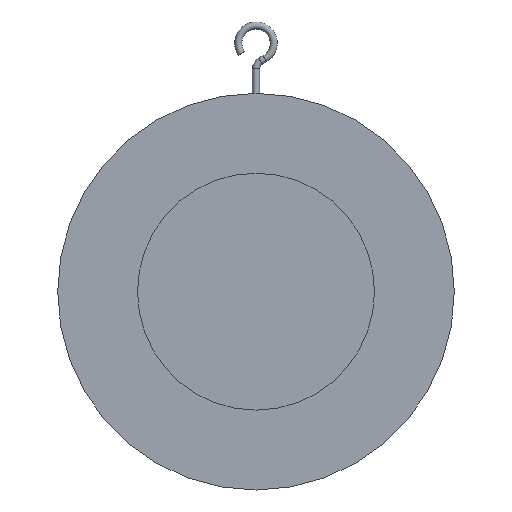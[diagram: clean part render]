
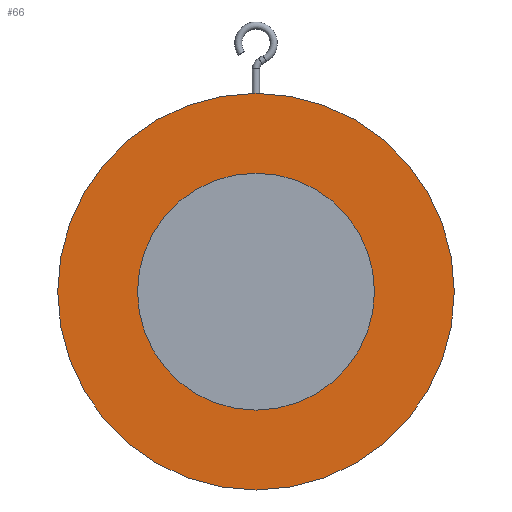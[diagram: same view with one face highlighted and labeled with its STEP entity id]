
A CAD part, front view. The second image highlights one B-rep face of the part: STEP entity #66.
In plain terms, the highlighted planar face has unit normal (0, -1, 0).
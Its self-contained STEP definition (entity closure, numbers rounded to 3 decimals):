
#66=ADVANCED_FACE('',(#203,#205),#207,.T.);
#203=FACE_BOUND('',#204,.T.);
#204=EDGE_LOOP('',(#315));
#205=FACE_BOUND('',#206,.T.);
#206=EDGE_LOOP('',(#316));
#207=PLANE('',#208);
#208=AXIS2_PLACEMENT_3D('',#209,#210,#211);
#209=CARTESIAN_POINT('',(0.,-19.,0.));
#210=DIRECTION('',(0.,-1.,0.));
#211=DIRECTION('',(0.,0.,1.));
#315=ORIENTED_EDGE('',*,*,#356,.F.);
#316=ORIENTED_EDGE('',*,*,#358,.T.);
#356=EDGE_CURVE('',#383,#383,#384,.T.);
#358=EDGE_CURVE('',#387,#387,#388,.T.);
#383=VERTEX_POINT('',#617);
#384=CIRCLE('',#618,223.5);
#387=VERTEX_POINT('',#627);
#388=CIRCLE('',#628,133.5);
#617=CARTESIAN_POINT('',(0.,-19.,223.5));
#618=AXIS2_PLACEMENT_3D('',#619,#620,#621);
#619=CARTESIAN_POINT('',(0.,-19.,0.));
#620=DIRECTION('',(0.,1.,0.));
#621=DIRECTION('',(0.,0.,1.));
#627=CARTESIAN_POINT('',(0.,-19.,133.5));
#628=AXIS2_PLACEMENT_3D('',#629,#630,#631);
#629=CARTESIAN_POINT('',(0.,-19.,0.));
#630=DIRECTION('',(0.,1.,0.));
#631=DIRECTION('',(0.,0.,1.));
